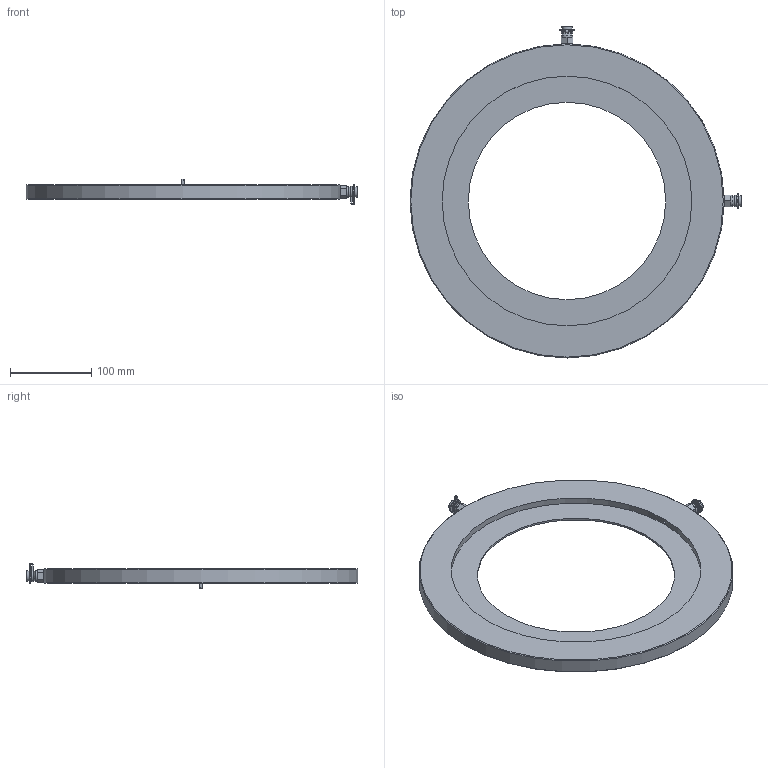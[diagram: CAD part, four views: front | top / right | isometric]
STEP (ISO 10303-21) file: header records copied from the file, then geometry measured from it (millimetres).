
FILE_DESCRIPTION((''),'2;1');
FILE_NAME('P:\Fastrack\53972_CRANE 3D\Workspace\DM900_DN300\DM900_DN300.stp','2010-12-23T14:25:29',('btaylor'),(''),'Autodesk Inventor 2008','Autodesk Inventor 2008','');
FILE_SCHEMA(('AUTOMOTIVE_DESIGN { 1 0 10303 214 1 1 1 1 }'));
Length unit declared in the file: millimetre
Products named in the file (1): DM900_DN300
Bounding box: 408.1 x 408.1 x 31.45 mm (x, y, z)
Volume: 842954.4 mm3; surface area: 182637.9 mm2
Topology: 1 solids, 1 shells, 103 faces, 231 edges, 149 vertices
Faces by surface type: plane 48, cylinder 29, bspline 18, cone 8
Full cylindrical faces by diameter (mm): 3.2 x2, 7.4 x2, 11 x2, 12.7 x2, 13.7 x2, 242.6 x1, 307 x2, 386 x1
Entity records: 7486 total; most frequent: CARTESIAN_POINT 5255, ORIENTED_EDGE 392, DIRECTION 390, EDGE_CURVE 196, EDGE_LOOP 152, AXIS2_PLACEMENT_3D 150, VERTEX_POINT 138, STYLED_ITEM 104
